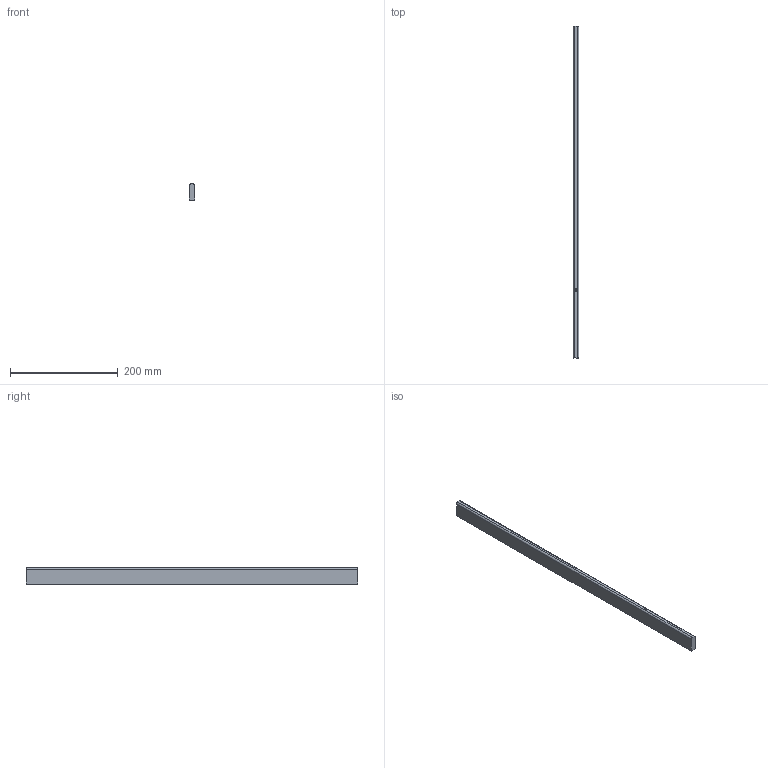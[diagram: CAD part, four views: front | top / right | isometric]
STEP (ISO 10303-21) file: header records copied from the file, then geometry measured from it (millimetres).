
FILE_DESCRIPTION (( 'STEP AP214' ), '1' );
FILE_NAME ('_Seitenreling_SP60702400_RL617,1.step', '2010-09-06T14:52:05', ( 'grass' ), ( '' ), 'SwSTEP 2.0', 'SolidWorks 2010', '' );
FILE_SCHEMA (( 'AUTOMOTIVE_DESIGN' ));
Length unit declared in the file: millimetre
Products named in the file (1): _Seitenreling_SP60702400_RL617,1
Bounding box: 10.5 x 617.1 x 30 mm (x, y, z)
Volume: 191083.7 mm3; surface area: 49556.6 mm2
Topology: 1 solids, 1 shells, 14 faces, 34 edges, 22 vertices
Faces by surface type: plane 8, cylinder 6
Entity records: 454 total; most frequent: DIRECTION 78, CARTESIAN_POINT 71, ORIENTED_EDGE 68, EDGE_CURVE 34, AXIS2_PLACEMENT_3D 29, VERTEX_POINT 22, VECTOR 20, LINE 20
